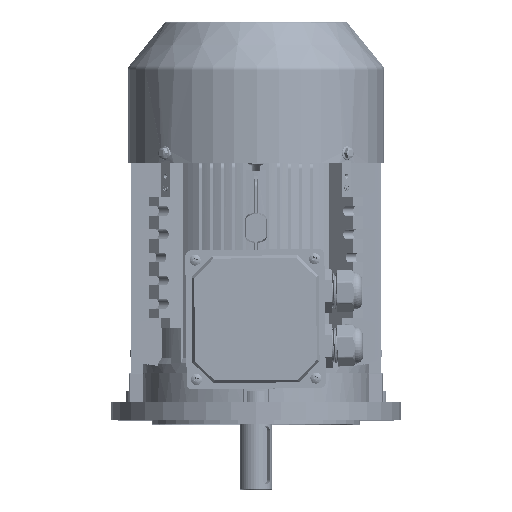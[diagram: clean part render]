
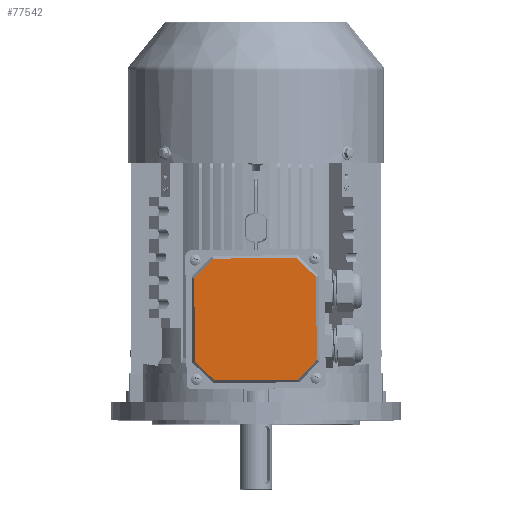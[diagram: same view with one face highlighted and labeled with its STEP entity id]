
A CAD part, top view. The second image highlights one B-rep face of the part: STEP entity #77542.
In plain terms, the highlighted planar face has unit normal (0, 0, 1) as drawn and (0, 0, -1) by its records, which use the part's own axes.
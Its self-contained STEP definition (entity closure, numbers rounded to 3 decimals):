
#155 = ORIENTED_EDGE ( 'NONE', *, *, #3890, .F. ) ;
#799 = EDGE_CURVE ( 'NONE', #99703, #90393, #110715, .T. ) ;
#2461 = EDGE_CURVE ( 'NONE', #91526, #18949, #78841, .T. ) ;
#3890 = EDGE_CURVE ( 'NONE', #11332, #77518, #43997, .T. ) ;
#3901 = CARTESIAN_POINT ( 'NONE',  ( 0., 0., -4. ) ) ;
#9095 = CARTESIAN_POINT ( 'NONE',  ( -44.22, -44.22, -4. ) ) ;
#11332 = VERTEX_POINT ( 'NONE', #56562 ) ;
#11911 = DIRECTION ( 'NONE',  ( -0.707, 0.707, 0. ) ) ;
#11926 = LINE ( 'NONE', #89778, #73601 ) ;
#12738 = DIRECTION ( 'NONE',  ( 1., 0., 0. ) ) ;
#15521 = DIRECTION ( 'NONE',  ( 0., 1., 0. ) ) ;
#17498 = ORIENTED_EDGE ( 'NONE', *, *, #69580, .F. ) ;
#18903 = CARTESIAN_POINT ( 'NONE',  ( -52.536, 0., -4. ) ) ;
#18949 = VERTEX_POINT ( 'NONE', #77839 ) ;
#20082 = DIRECTION ( 'NONE',  ( 1., 0., 0. ) ) ;
#20246 = VECTOR ( 'NONE', #56922, 1000. ) ;
#23250 = LINE ( 'NONE', #46507, #93141 ) ;
#23349 = EDGE_CURVE ( 'NONE', #90393, #76035, #52754, .T. ) ;
#24632 = ORIENTED_EDGE ( 'NONE', *, *, #2461, .F. ) ;
#28796 = AXIS2_PLACEMENT_3D ( 'NONE', #3901, #65211, #12738 ) ;
#32218 = VECTOR ( 'NONE', #15521, 1000. ) ;
#34349 = CARTESIAN_POINT ( 'NONE',  ( -35.903, 52.536, -4. ) ) ;
#36492 = DIRECTION ( 'NONE',  ( 0., -1., 0. ) ) ;
#36745 = CARTESIAN_POINT ( 'NONE',  ( 52.536, -35.903, -4. ) ) ;
#43997 = LINE ( 'NONE', #9095, #90630 ) ;
#44071 = CARTESIAN_POINT ( 'NONE',  ( -52.536, 35.903, -4. ) ) ;
#44511 = CARTESIAN_POINT ( 'NONE',  ( 35.903, -52.536, -4. ) ) ;
#46507 = CARTESIAN_POINT ( 'NONE',  ( 44.22, -44.22, -4. ) ) ;
#47617 = PLANE ( 'NONE',  #28796 ) ;
#48003 = ORIENTED_EDGE ( 'NONE', *, *, #799, .F. ) ;
#52754 = LINE ( 'NONE', #105006, #73254 ) ;
#53175 = ORIENTED_EDGE ( 'NONE', *, *, #86258, .F. ) ;
#54390 = ORIENTED_EDGE ( 'NONE', *, *, #66078, .F. ) ;
#55331 = DIRECTION ( 'NONE',  ( 0.707, 0.707, 0. ) ) ;
#56562 = CARTESIAN_POINT ( 'NONE',  ( -52.536, -35.903, -4. ) ) ;
#56922 = DIRECTION ( 'NONE',  ( -1., 0., 0. ) ) ;
#57534 = EDGE_CURVE ( 'NONE', #18949, #99703, #77756, .T. ) ;
#57890 = ORIENTED_EDGE ( 'NONE', *, *, #57534, .F. ) ;
#65211 = DIRECTION ( 'NONE',  ( 0., 0., 1. ) ) ;
#66078 = EDGE_CURVE ( 'NONE', #76035, #11332, #102911, .T. ) ;
#67995 = CARTESIAN_POINT ( 'NONE',  ( 52.536, 0., -4. ) ) ;
#69580 = EDGE_CURVE ( 'NONE', #77518, #95707, #11926, .T. ) ;
#72430 = EDGE_LOOP ( 'NONE', ( #24632, #53175, #17498, #155, #54390, #87691, #48003, #57890 ) ) ;
#73199 = CARTESIAN_POINT ( 'NONE',  ( 44.22, 44.22, -4. ) ) ;
#73254 = VECTOR ( 'NONE', #87764, 1000. ) ;
#73601 = VECTOR ( 'NONE', #20082, 1000. ) ;
#76035 = VERTEX_POINT ( 'NONE', #44071 ) ;
#77518 = VERTEX_POINT ( 'NONE', #90935 ) ;
#77542 = ADVANCED_FACE ( 'NONE', ( #104289 ), #47617, .F. ) ;
#77756 = LINE ( 'NONE', #73199, #101042 ) ;
#77839 = CARTESIAN_POINT ( 'NONE',  ( 52.536, 35.903, -4. ) ) ;
#78841 = LINE ( 'NONE', #67995, #32218 ) ;
#86258 = EDGE_CURVE ( 'NONE', #95707, #91526, #23250, .T. ) ;
#87691 = ORIENTED_EDGE ( 'NONE', *, *, #23349, .F. ) ;
#87764 = DIRECTION ( 'NONE',  ( -0.707, -0.707, 0. ) ) ;
#89778 = CARTESIAN_POINT ( 'NONE',  ( 0., -52.536, -4. ) ) ;
#90393 = VERTEX_POINT ( 'NONE', #34349 ) ;
#90630 = VECTOR ( 'NONE', #105684, 1000. ) ;
#90935 = CARTESIAN_POINT ( 'NONE',  ( -35.903, -52.536, -4. ) ) ;
#91526 = VERTEX_POINT ( 'NONE', #36745 ) ;
#93141 = VECTOR ( 'NONE', #55331, 1000. ) ;
#95707 = VERTEX_POINT ( 'NONE', #44511 ) ;
#99703 = VERTEX_POINT ( 'NONE', #105920 ) ;
#101042 = VECTOR ( 'NONE', #11911, 1000. ) ;
#102911 = LINE ( 'NONE', #18903, #105677 ) ;
#104289 = FACE_OUTER_BOUND ( 'NONE', #72430, .T. ) ;
#105006 = CARTESIAN_POINT ( 'NONE',  ( -44.22, 44.22, -4. ) ) ;
#105677 = VECTOR ( 'NONE', #36492, 1000. ) ;
#105684 = DIRECTION ( 'NONE',  ( 0.707, -0.707, 0. ) ) ;
#105920 = CARTESIAN_POINT ( 'NONE',  ( 35.903, 52.536, -4. ) ) ;
#109811 = CARTESIAN_POINT ( 'NONE',  ( 0., 52.536, -4. ) ) ;
#110715 = LINE ( 'NONE', #109811, #20246 ) ;
